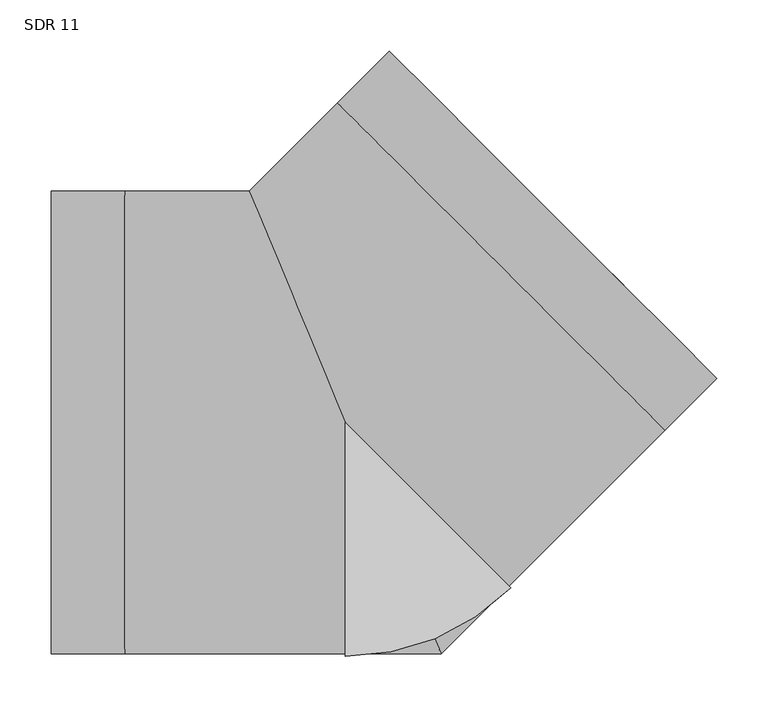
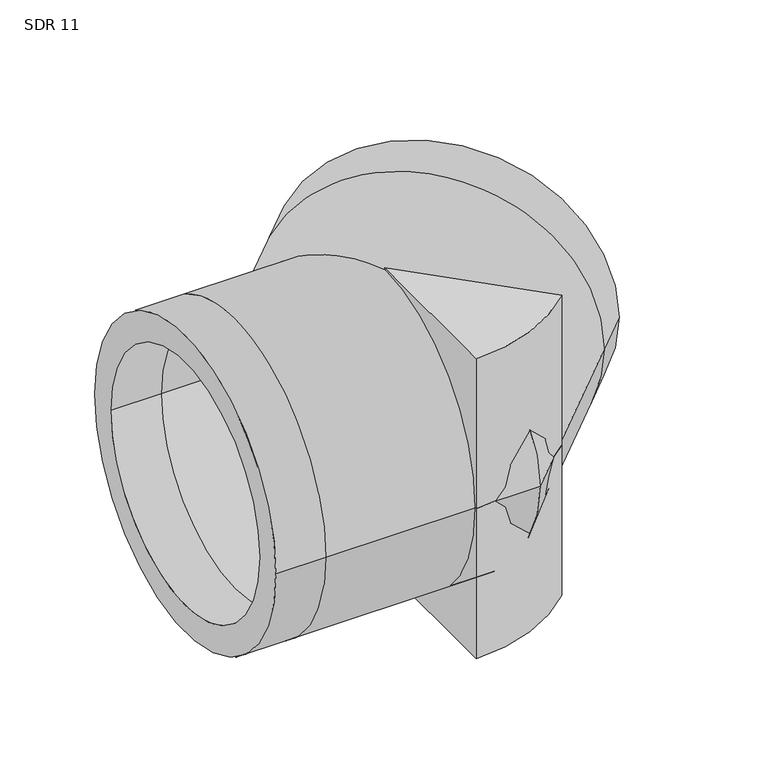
"""IFC4 building model written with IfcOpenShell, lengths in millimetres: pipe fitting geometry, Aquatherm - Elbow Blue BW Segmented : SDR 11."""

from ifc_helpers import new_model, si_unit, point, frame, origin, origin_with_axes, origin_2d, place, context, project, spatial, polyline, circle_curve, ellipse_curve, trimmed, segment, composite_curve, outline, extrude, source, transform, mapped, element, save
from ifc_brep_helpers import plane_surface, cylinder_surface, revolved_surface, advanced_brep


def sdr_11_758918ab(model_context):
    return source(origin(), model_context, "Body", "SolidModel", [
        extrude(outline(composite_curve([segment(polyline([(0.0, -228.6), (0.0, 0.0), (161.6446102, -161.6446102)]), True, "CONTINUOUS"), segment(trimmed(circle_curve(origin_2d(), 228.6), [point((161.6446102, -161.6446102))], [point((0.0, -228.6))], False, "CARTESIAN"), True, "CONTINUOUS")], self_intersect=False)), frame((0.0, 0.0, -228.6), z_axis=(0.0, 0.0, 1.0), x_axis=(1.0, 0.0, 0.0)), (0.0, 0.0, 1.0), 228.6),
        extrude(outline(composite_curve([segment(trimmed(circle_curve(origin_2d(), 228.6), [point((161.6446102, -161.6446102))], [point((0.0, -228.6))], False, "CARTESIAN"), True, "CONTINUOUS"), segment(polyline([(0.0, -228.6), (0.0, 0.0), (161.6446102, -161.6446102)]), True, "CONTINUOUS")], self_intersect=False)), origin_with_axes(), (0.0, 0.0, 1.0), 228.6),
        advanced_brep(
        [(-287.02, -226.06, 0.0), (-287.02, 226.06, 0.0), (-287.02, -184.9581818, 0.0), (-287.02, 184.9581818, 0.0), (362.8023473, 43.1052294, 0.0), (43.1052294, 362.8023473, 0.0), (333.7389729, 72.1686037, 0.0), (72.1686037, 333.7389729, 0.0), (-215.265, -226.06, 0.0), (-215.265, 226.06, 0.0), (-215.265, -184.9581818, 0.0), (-215.265, 184.9581818, 0.0), (93.6371179, -226.06, 0.0), (-93.6371179, 226.06, 0.0), (76.6121874, -184.9581818, 0.0), (-76.6121874, 184.9581818, 0.0), (312.0639002, -7.6332177, 0.0), (-7.6332177, 312.0639002, 0.0), (283.0005259, 21.4301567, 0.0), (21.4301567, 283.0005259, 0.0)],
        [
            (0, 1, circle_curve(frame((-287.02, 0.0, 0.0), z_axis=(-1.0, 0.0, 0.0), x_axis=(0.0, 1.0, 0.0)), 226.06)),
            (1, 0, circle_curve(frame((-287.02, 0.0, 0.0), z_axis=(-1.0, 0.0, 0.0), x_axis=(0.0, 1.0, 0.0)), 226.06)),
            (2, 3, circle_curve(frame((-287.02, 0.0, 0.0), z_axis=(1.0, 0.0, 0.0), x_axis=(0.0, 1.0, 0.0)), 184.9581818)),
            (3, 2, circle_curve(frame((-287.02, 0.0, 0.0), z_axis=(1.0, 0.0, 0.0), x_axis=(0.0, 1.0, 0.0)), 184.9581818)),
            (4, 5, circle_curve(frame((202.9537883, 202.9537883, 0.0), z_axis=(0.7071067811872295, 0.7071067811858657, 0.0), x_axis=(-0.7071067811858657, 0.7071067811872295, 0.0)), 226.06)),
            (5, 4, circle_curve(frame((202.9537883, 202.9537883, 0.0), z_axis=(0.7071067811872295, 0.7071067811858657, 0.0), x_axis=(-0.7071067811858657, 0.7071067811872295, 0.0)), 226.06)),
            (6, 7, circle_curve(frame((202.9537883, 202.9537883, 0.0), z_axis=(-0.7071067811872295, -0.7071067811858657, 0.0), x_axis=(-0.7071067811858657, 0.7071067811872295, 0.0)), 184.9581818)),
            (7, 6, circle_curve(frame((202.9537883, 202.9537883, 0.0), z_axis=(-0.7071067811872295, -0.7071067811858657, 0.0), x_axis=(-0.7071067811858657, 0.7071067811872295, 0.0)), 184.9581818)),
            (0, 8),
            (8, 9, circle_curve(frame((-215.265, 0.0, 0.0), z_axis=(-1.0, 0.0, 0.0), x_axis=(0.0, 1.0, 0.0)), 226.06)),
            (9, 1),
            (9, 8, circle_curve(frame((-215.265, 0.0, 0.0), z_axis=(-1.0, 0.0, 0.0), x_axis=(0.0, 1.0, 0.0)), 226.06)),
            (2, 10),
            (10, 11, circle_curve(frame((-215.265, 0.0, 0.0), z_axis=(1.0, 0.0, 0.0), x_axis=(0.0, 1.0, 0.0)), 184.9581818)),
            (11, 3),
            (11, 10, circle_curve(frame((-215.265, 0.0, 0.0), z_axis=(1.0, 0.0, 0.0), x_axis=(0.0, 1.0, 0.0)), 184.9581818)),
            (8, 12),
            (12, 13, ellipse_curve(frame((0.0, 0.0, 0.0), z_axis=(-0.9238795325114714, -0.38268343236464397, 0.0), x_axis=(-0.38268343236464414, 0.9238795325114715, 0.0)), 244.6855808, 226.06)),
            (13, 9),
            (13, 12, ellipse_curve(frame((0.0, 0.0, 0.0), z_axis=(-0.9238795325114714, -0.38268343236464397, 0.0), x_axis=(-0.38268343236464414, 0.9238795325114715, 0.0)), 244.6855808, 226.06)),
            (10, 14),
            (14, 15, ellipse_curve(frame((0.0, 0.0, 0.0), z_axis=(0.9238795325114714, 0.38268343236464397, 0.0), x_axis=(0.38268343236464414, -0.9238795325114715, 0.0)), 200.1972934, 184.9581818)),
            (15, 11),
            (15, 14, ellipse_curve(frame((0.0, 0.0, 0.0), z_axis=(0.9238795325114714, 0.38268343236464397, 0.0), x_axis=(0.38268343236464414, -0.9238795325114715, 0.0)), 200.1972934, 184.9581818)),
            (12, 16),
            (16, 17, circle_curve(frame((152.2153413, 152.2153413, 0.0), z_axis=(-0.7071067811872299, -0.7071067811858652, 0.0), x_axis=(-0.7071067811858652, 0.7071067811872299, 0.0)), 226.06)),
            (17, 13),
            (17, 16, circle_curve(frame((152.2153413, 152.2153413, 0.0), z_axis=(-0.7071067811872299, -0.7071067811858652, 0.0), x_axis=(-0.7071067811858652, 0.7071067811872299, 0.0)), 226.06)),
            (14, 18),
            (18, 19, circle_curve(frame((152.2153413, 152.2153413, 0.0), z_axis=(0.7071067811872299, 0.7071067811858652, 0.0), x_axis=(-0.7071067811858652, 0.7071067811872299, 0.0)), 184.9581818)),
            (19, 15),
            (19, 18, circle_curve(frame((152.2153413, 152.2153413, 0.0), z_axis=(0.7071067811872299, 0.7071067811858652, 0.0), x_axis=(-0.7071067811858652, 0.7071067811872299, 0.0)), 184.9581818)),
            (16, 4),
            (5, 17),
            (18, 6),
            (7, 19),
        ],
        [
            plane_surface(frame((-287.02, 0.0, 0.0), z_axis=(-1.0, 0.0, 0.0), x_axis=(0.0, 0.0, 1.0))),
            plane_surface(frame((202.9537883, 202.9537883, 0.0), z_axis=(0.7071067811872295, 0.7071067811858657, 0.0), x_axis=(0.0, 0.0, 1.0))),
            cylinder_surface(frame((-287.02, 0.0, 0.0), z_axis=(-1.0, 0.0, 0.0), x_axis=(0.0, 1.0, 0.0)), 226.06),
            revolved_surface(polyline([(-215.265, 184.9581818, 0.0), (-287.02, 184.9581818, 0.0)]), (-287.02, 0.0, 0.0), (1.0, 0.0, 0.0)),
            cylinder_surface(frame((-215.265, 0.0, 0.0), z_axis=(-1.0, 0.0, 0.0), x_axis=(0.0, 1.0, 0.0)), 226.06),
            revolved_surface(polyline([(76.61218739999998, 184.9581818, 0.0), (-215.265, 184.9581818, 0.0)]), (-215.265, 0.0, 0.0), (1.0, 0.0, 0.0)),
            cylinder_surface(frame((0.0, 0.0, 0.0), z_axis=(-0.7071067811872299, -0.7071067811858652, 0.0), x_axis=(-0.7071067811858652, 0.7071067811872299, 0.0)), 226.06),
            revolved_surface(polyline([(21.43015671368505, 283.0005258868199, 0.0), (-184.95818181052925, 76.61218736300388, 0.0)]), (0.0, 0.0, 0.0), (0.7071067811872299, 0.7071067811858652, 0.0)),
            cylinder_surface(frame((152.2153413, 152.2153413, 0.0), z_axis=(-0.7071067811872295, -0.7071067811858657, 0.0), x_axis=(-0.7071067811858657, 0.7071067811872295, 0.0)), 226.06),
            revolved_surface(polyline([(72.16860371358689, 333.7389728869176, 0.0), (21.43015671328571, 283.0005258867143, 0.0)]), (152.2153413, 152.2153413, 0.0), (0.7071067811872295, 0.7071067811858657, 0.0)),
        ],
        [
            (0, [[1, 2], [3, 4]]),
            (1, [[5, 6], [7, 8]]),
            (2, [[-1, 9, 10, 11]]),
            (2, [[-2, -11, 12, -9]]),
            (3, [[-3, 13, 14, 15]]),
            (3, [[-4, -15, 16, -13]]),
            (4, [[-10, 17, 18, 19]]),
            (4, [[-12, -19, 20, -17]]),
            (5, [[-14, 21, 22, 23]]),
            (5, [[-16, -23, 24, -21]]),
            (6, [[-18, 25, 26, 27]]),
            (6, [[-20, -27, 28, -25]]),
            (7, [[-22, 29, 30, 31]]),
            (7, [[-24, -31, 32, -29]]),
            (8, [[-26, 33, -6, 34]]),
            (8, [[-28, -34, -5, -33]]),
            (9, [[-30, 35, -8, 36]]),
            (9, [[-32, -36, -7, -35]]),
        ],
    ),
    ])


if __name__ == "__main__":
    model = new_model("IFC4")
    model_context = context("Model", 3, world=origin())
    ifc_project = project(units=[si_unit("LENGTHUNIT", "METRE", prefix="MILLI")], contexts=[model_context])
    site = spatial("IfcSite", under=ifc_project)
    building = spatial("IfcBuilding", under=site)
    placement = place(None, origin())
    sdr_11_shape = sdr_11_758918ab(model_context)
    element("IfcPipeFitting", 1, ObjectType="Aquatherm - Elbow Blue BW Segmented : SDR 11", at=placement, inside=building, context=model_context, shape_type="MappedRepresentation", body=[
        mapped(sdr_11_shape, transform((0.0, 0.0, 0.0), x_axis=(1.0, 0.0, 0.0), y_axis=(0.0, 1.0, 0.0), z_axis=(0.0, 0.0, 1.0))),
    ])
    save(model, "model.ifc")
